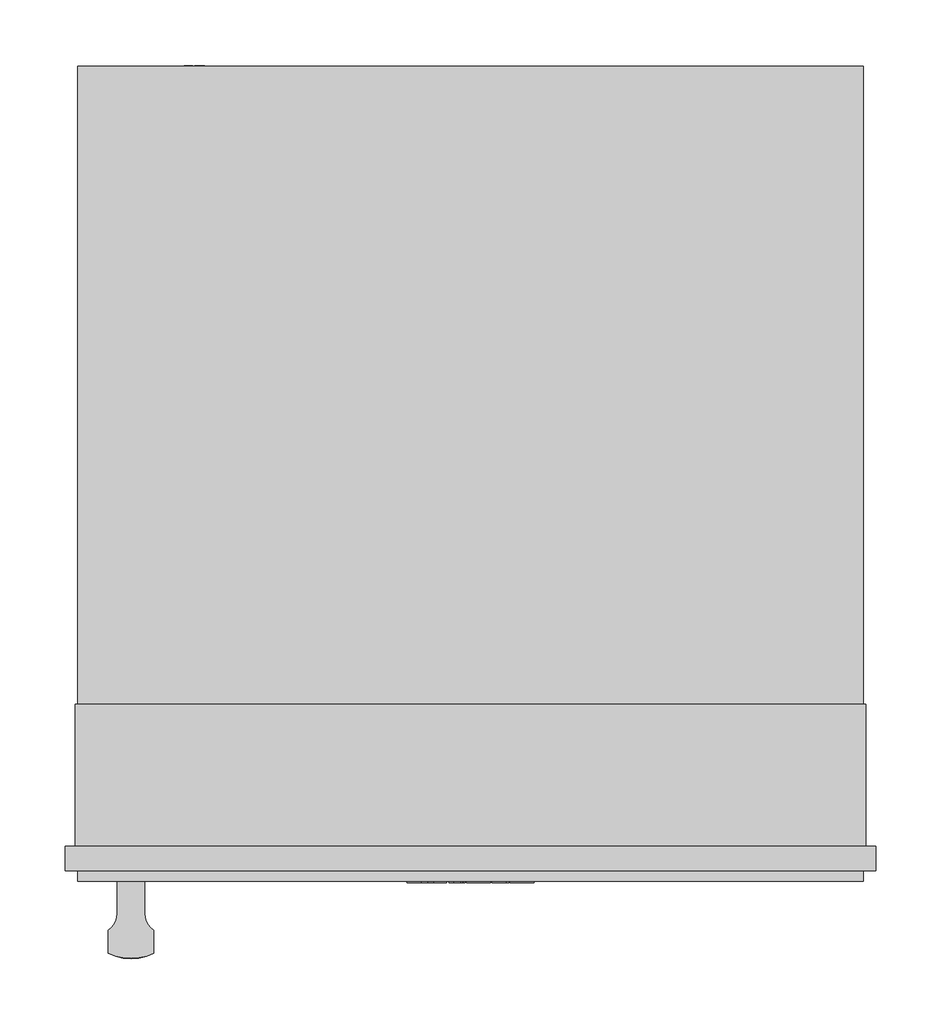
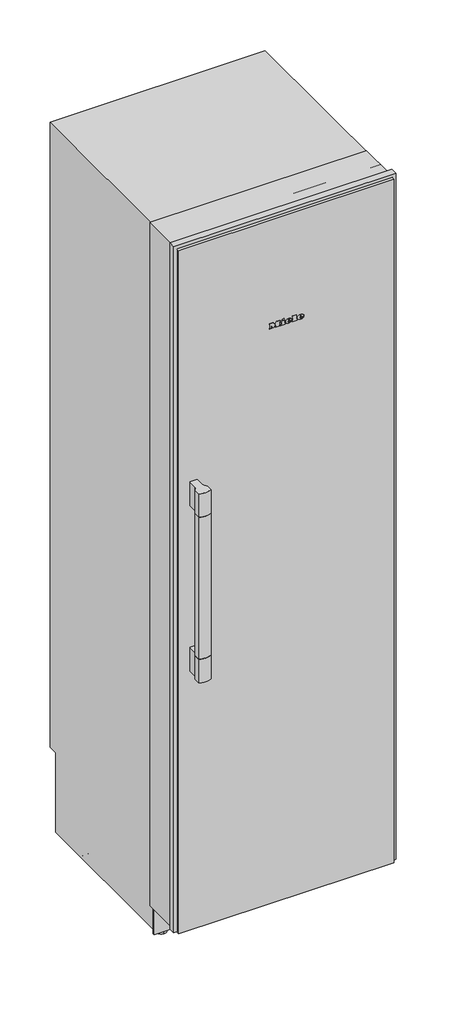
# Not in any storey: 1 proxy.
"""IFC4 building model written with IfcOpenShell, lengths in millimetres."""

from ifc_helpers import new_model, si_unit, origin, place, context, project, spatial, transform, mapped, element, save
from components import specialty_equipment_205c020d

model = new_model("IFC4")

# Units and contexts
model_context = context("Model", 3, world=origin())
ifc_project = project(units=[si_unit("LENGTHUNIT", "METRE", prefix="MILLI")], contexts=[model_context])

# Site, building
site = spatial("IfcSite", under=ifc_project)
building = spatial("IfcBuilding", under=site)

# Proxy
placement = place(None, origin())
specialty_equipment_shape = specialty_equipment_205c020d(model_context)
element("IfcBuildingElementProxy", 1, Name="11502570_USA_K2602SF : 36260211_USA_11502570_K2602SF", ObjectType="11502570_USA_K2602SF : 36260211_USA_11502570_K2602SF", at=placement, inside=building, context=model_context, shape_type="MappedRepresentation", body=[
    mapped(specialty_equipment_shape, transform((0.0, 0.0, 0.0), x_axis=(1.0, 0.0, 0.0), y_axis=(0.0, 1.0, 0.0), z_axis=(0.0, 0.0, 1.0))),
])

save(model, "model.ifc")
